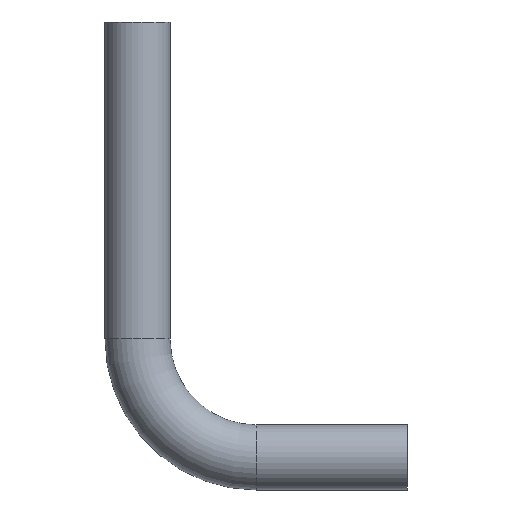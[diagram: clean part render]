
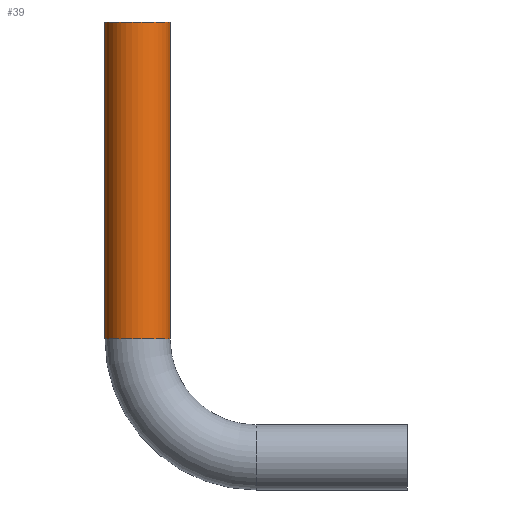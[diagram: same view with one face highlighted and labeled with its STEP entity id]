
A CAD part, top view. The second image highlights one B-rep face of the part: STEP entity #39.
In plain terms, the highlighted cylindrical face has radius 55 mm (diameter 110 mm), a partial arc.
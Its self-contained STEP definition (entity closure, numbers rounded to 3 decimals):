
#15 = ORIENTED_EDGE ( 'NONE', *, *, #214, .T. ) ;
#18 = ORIENTED_EDGE ( 'NONE', *, *, #205, .F. ) ;
#23 = ORIENTED_EDGE ( 'NONE', *, *, #217, .F. ) ;
#26 = ORIENTED_EDGE ( 'NONE', *, *, #210, .F. ) ;
#39 = ADVANCED_FACE ( 'NONE', ( #231 ), #236, .T. ) ;
#56 = AXIS2_PLACEMENT_3D ( 'NONE', #380, #367, #383 ) ;
#75 = DIRECTION ( 'NONE',  ( 0., 1., 0. ) ) ;
#81 = DIRECTION ( 'NONE',  ( -1., 0., 0. ) ) ;
#82 = DIRECTION ( 'NONE',  ( 0., -1., 0. ) ) ;
#83 = CARTESIAN_POINT ( 'NONE',  ( -450., 200., 0. ) ) ;
#104 = CARTESIAN_POINT ( 'NONE',  ( -395., 200., 0. ) ) ;
#110 = DIRECTION ( 'NONE',  ( 0., 1., 0. ) ) ;
#130 = DIRECTION ( 'NONE',  ( 0., 0., -1. ) ) ;
#133 = CARTESIAN_POINT ( 'NONE',  ( -395., 735., 0. ) ) ;
#136 = CARTESIAN_POINT ( 'NONE',  ( -340., 200., 0. ) ) ;
#146 = DIRECTION ( 'NONE',  ( 0., 1., 0. ) ) ;
#150 = VERTEX_POINT ( 'NONE', #353 ) ;
#162 = VERTEX_POINT ( 'NONE', #394 ) ;
#174 = VERTEX_POINT ( 'NONE', #344 ) ;
#185 = VERTEX_POINT ( 'NONE', #360 ) ;
#205 = EDGE_CURVE ( 'NONE', #150, #162, #289, .T. ) ;
#210 = EDGE_CURVE ( 'NONE', #162, #185, #292, .T. ) ;
#214 = EDGE_CURVE ( 'NONE', #150, #174, #299, .T. ) ;
#217 = EDGE_CURVE ( 'NONE', #185, #174, #306, .T. ) ;
#222 = EDGE_LOOP ( 'NONE', ( #18, #15, #23, #26 ) ) ;
#231 = FACE_OUTER_BOUND ( 'NONE', #222, .T. ) ;
#236 = CYLINDRICAL_SURFACE ( 'NONE', #56, 55. ) ;
#289 = CIRCLE ( 'NONE', #320, 55. ) ;
#292 = LINE ( 'NONE', #83, #300 ) ;
#299 = LINE ( 'NONE', #136, #304 ) ;
#300 = VECTOR ( 'NONE', #75, 1000. ) ;
#304 = VECTOR ( 'NONE', #110, 1000. ) ;
#306 = CIRCLE ( 'NONE', #329, 55. ) ;
#320 = AXIS2_PLACEMENT_3D ( 'NONE', #104, #82, #130 ) ;
#329 = AXIS2_PLACEMENT_3D ( 'NONE', #133, #146, #81 ) ;
#344 = CARTESIAN_POINT ( 'NONE',  ( -340., 735., 0. ) ) ;
#353 = CARTESIAN_POINT ( 'NONE',  ( -340., 200., 0. ) ) ;
#360 = CARTESIAN_POINT ( 'NONE',  ( -450., 735., 0. ) ) ;
#367 = DIRECTION ( 'NONE',  ( 0., 1., 0. ) ) ;
#380 = CARTESIAN_POINT ( 'NONE',  ( -395., 200., 0. ) ) ;
#383 = DIRECTION ( 'NONE',  ( -1., 0., 0. ) ) ;
#394 = CARTESIAN_POINT ( 'NONE',  ( -450., 200., 0. ) ) ;
